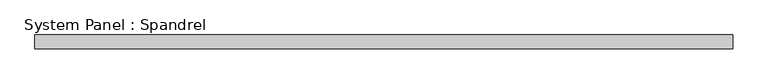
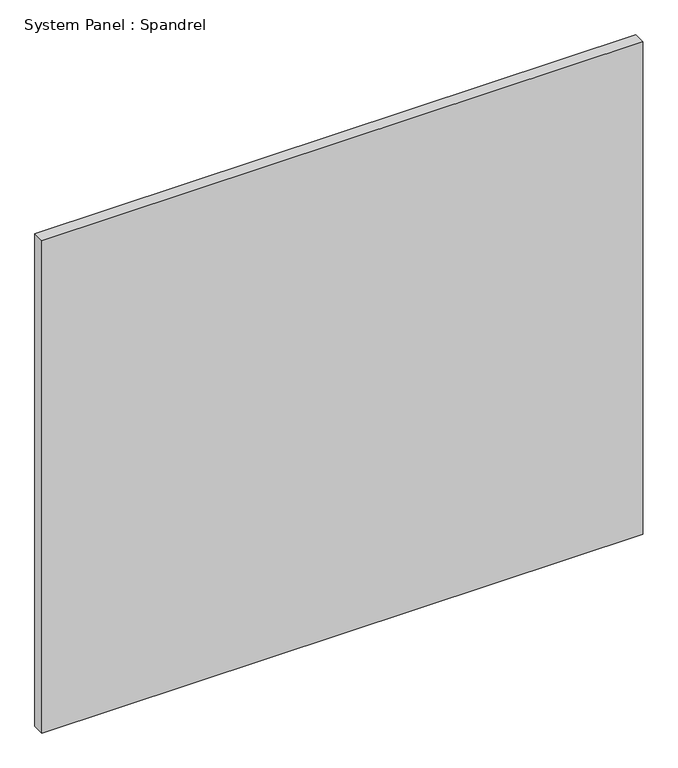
"""IFC4 building model written with IfcOpenShell, lengths in millimetres: plate geometry, System Panel : Spandrel."""

from ifc_helpers import new_model, si_unit, origin, origin_with_axes, place, context, project, spatial, polyline, outline, extrude, source, transform, mapped, element, save


def system_panel_spandrel_c0dfb6f0(model_context):
    return source(origin(), model_context, "Body", "SweptSolid", [
        extrude(outline(polyline([(634.9999998, 0.0), (-634.9999998, 0.0), (-634.9999998, 25.0), (634.9999998, 25.0), (634.9999998, 0.0)])), origin_with_axes(), (0.0, 0.0, 1.0), 1100.0),
    ])


if __name__ == "__main__":
    model = new_model("IFC4")
    model_context = context("Model", 3, world=origin())
    ifc_project = project(units=[si_unit("LENGTHUNIT", "METRE", prefix="MILLI")], contexts=[model_context])
    site = spatial("IfcSite", under=ifc_project)
    building = spatial("IfcBuilding", under=site)
    placement = place(None, origin())
    system_panel_spandrel_shape = system_panel_spandrel_c0dfb6f0(model_context)
    element("IfcPlate", 1, ObjectType="System Panel : Spandrel", at=placement, inside=building, context=model_context, shape_type="MappedRepresentation", body=[
        mapped(system_panel_spandrel_shape, transform((0.0, 0.0, 0.0), x_axis=(1.0, 0.0, 0.0), y_axis=(0.0, 1.0, 0.0), z_axis=(0.0, 0.0, 1.0))),
    ])
    save(model, "model.ifc")
